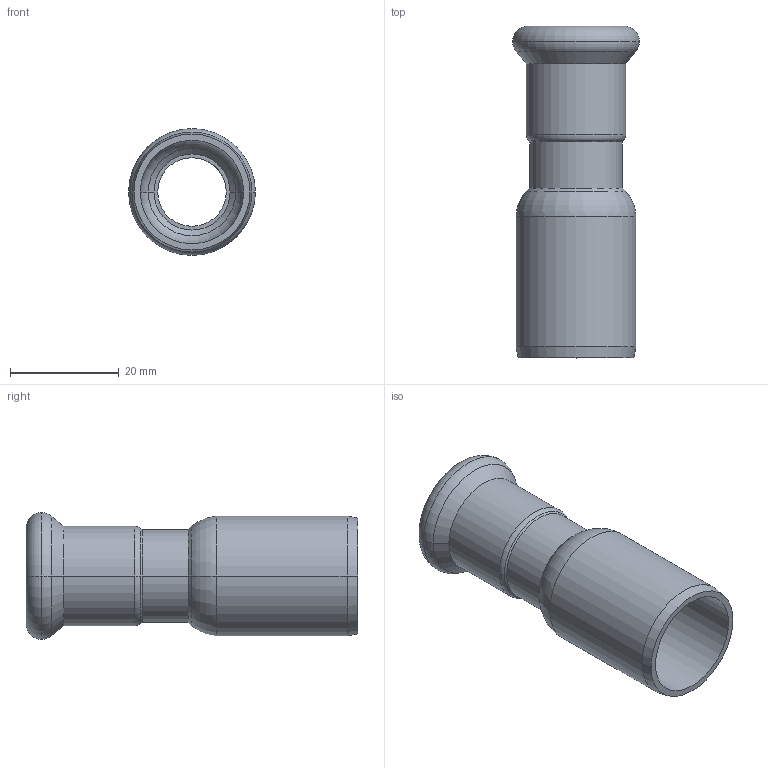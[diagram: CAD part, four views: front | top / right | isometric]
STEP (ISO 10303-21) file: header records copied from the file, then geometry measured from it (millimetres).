
FILE_DESCRIPTION(('CoCreate Modeling STEP Export'),'2;1');
FILE_NAME('C1407 15x22.stp','2014-11-07T14:28:44',(''),(''),'CoCreate Modeling STEP processor for AP214 (Solid Model)','CoCreate Modeling 17.00A 17-Jun-2010 (C) Parametric Technology GmbH','');
FILE_SCHEMA(('AUTOMOTIVE_DESIGN { 1 0 10303 214 1 1 1 1 }'));
Length unit declared in the file: millimetre
Products named in the file (2): C1407_15x22
Assembly tree (1 placements, depth 2):
  C1407_15x22
    C1407_15x22
Bounding box: 23.3 x 61 x 23.3 mm (x, y, z)
Volume: 6268.5 mm3; surface area: 7591.4 mm2
Topology: 1 solids, 1 shells, 41 faces, 83 edges, 47 vertices
Faces by surface type: cylinder 16, cone 10, torus 10, plane 5
Entity records: 908 total; most frequent: ORIENTED_EDGE 166, DIRECTION 140, CARTESIAN_POINT 130, EDGE_CURVE 83, AXIS2_PLACEMENT_3D 57, VERTEX_POINT 47, EDGE_LOOP 46, FACE_OUTER_BOUND 41
